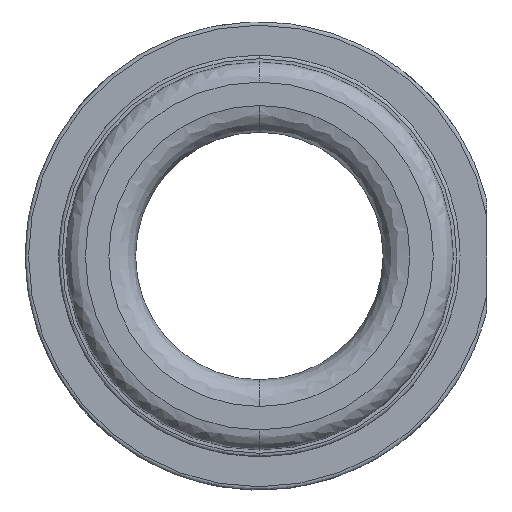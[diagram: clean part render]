
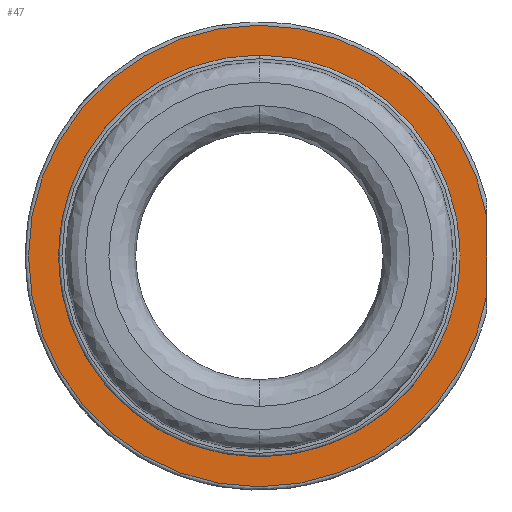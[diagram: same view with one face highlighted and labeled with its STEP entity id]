
A CAD part, left-side view. The second image highlights one B-rep face of the part: STEP entity #47.
In plain terms, the highlighted planar face has unit normal (-1, 0, 0).
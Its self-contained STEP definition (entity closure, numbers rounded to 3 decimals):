
#47=ADVANCED_FACE('',(#198,#199),#197,.F.);
#197=PLANE('',#1029);
#198=FACE_OUTER_BOUND('',#1030,.T.);
#199=FACE_BOUND('',#1031,.T.);
#1026=CARTESIAN_POINT('',(-7.,-43.691,67.7));
#1027=DIRECTION('',(1.,0.,0.));
#1028=DIRECTION('',(0.,0.,-1.));
#1029=AXIS2_PLACEMENT_3D('',#1026,#1027,#1028);
#1030=EDGE_LOOP('',(#1988,#1989));
#1031=EDGE_LOOP('',(#1990,#1991));
#1988=ORIENTED_EDGE('',*,*,#2316,.F.);
#1989=ORIENTED_EDGE('',*,*,#2317,.T.);
#1990=ORIENTED_EDGE('',*,*,#2318,.T.);
#1991=ORIENTED_EDGE('',*,*,#2319,.T.);
#2316=EDGE_CURVE('',#2648,#2649,#2650,.T.);
#2317=EDGE_CURVE('',#2648,#2649,#2656,.T.);
#2318=EDGE_CURVE('',#2662,#2663,#2664,.T.);
#2319=EDGE_CURVE('',#2663,#2662,#2670,.T.);
#2648=VERTEX_POINT('',#3692);
#2649=VERTEX_POINT('',#3693);
#2650=LINE('',#3694,#3695);
#2656=CIRCLE('',#3700,34.5);
#2662=VERTEX_POINT('',#3701);
#2663=VERTEX_POINT('',#3702);
#2664=CIRCLE('',#3706,29.);
#2670=CIRCLE('',#3710,29.);
#3692=CARTESIAN_POINT('',(-7.,-34.,5.852));
#3693=CARTESIAN_POINT('',(-7.,-34.,-5.852));
#3694=CARTESIAN_POINT('',(-7.,-34.,5.852));
#3695=VECTOR('',#3696,11.705);
#3696=DIRECTION('',(0.,0.,-1.));
#3697=CARTESIAN_POINT('',(-7.,0.,0.));
#3698=DIRECTION('',(-1.,0.,0.));
#3699=DIRECTION('',(0.,-0.986,-0.17));
#3700=AXIS2_PLACEMENT_3D('',#3697,#3698,#3699);
#3701=CARTESIAN_POINT('',(-7.,0.,-29.));
#3702=CARTESIAN_POINT('',(-7.,0.,29.));
#3703=CARTESIAN_POINT('',(-7.,0.,0.));
#3704=DIRECTION('',(1.,0.,0.));
#3705=DIRECTION('',(0.,0.,-1.));
#3706=AXIS2_PLACEMENT_3D('',#3703,#3704,#3705);
#3707=CARTESIAN_POINT('',(-7.,0.,0.));
#3708=DIRECTION('',(1.,0.,0.));
#3709=DIRECTION('',(0.,0.,-1.));
#3710=AXIS2_PLACEMENT_3D('',#3707,#3708,#3709);
